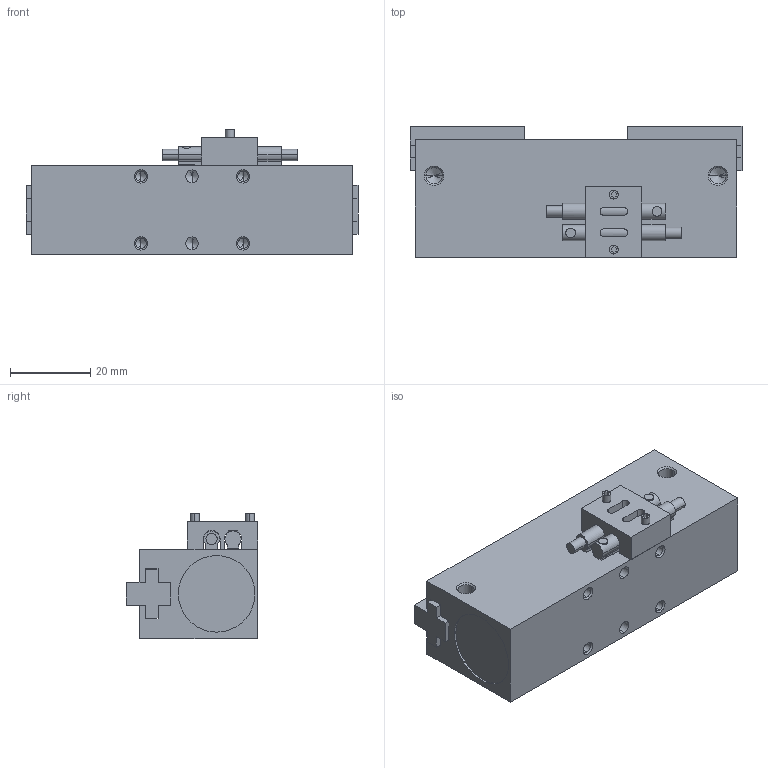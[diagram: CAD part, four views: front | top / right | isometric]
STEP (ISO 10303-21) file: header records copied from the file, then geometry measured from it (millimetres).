
FILE_DESCRIPTION (( 'STEP AP203' ), '1' );
FILE_NAME ('AGLP-4 OPEN in MM.STEP', '2014-10-31T17:50:09', ( 'setup' ), ( '' ), 'SwSTEP 2.0', 'SolidWorks 2013', '' );
FILE_SCHEMA (( 'CONFIG_CONTROL_DESIGN' ));
Length unit declared in the file: millimetre
Products named in the file (5): AGLP-4 BODY; AGLP-4 JAW; AGLP-4 BLOCK; AGLP-4 SENSOR; AGLP-4 OPEN in MM
Assembly tree (6 placements, depth 2):
  AGLP-4 OPEN in MM
    AGLP-4 BODY
    AGLP-4 JAW  x2
    AGLP-4 BLOCK
    AGLP-4 SENSOR  x2
Bounding box: 82.55 x 32.59 x 31.11 mm (x, y, z)
Volume: 52713.3 mm3; surface area: 17614.9 mm2
Topology: 6 solids, 6 shells, 252 faces, 612 edges, 366 vertices
Faces by surface type: plane 108, cylinder 76, cone 68
Entity records: 5802 total; most frequent: CARTESIAN_POINT 990, DIRECTION 917, ORIENTED_EDGE 838, EDGE_CURVE 419, AXIS2_PLACEMENT_3D 316, VECTOR 285, LINE 285, VERTEX_POINT 267
